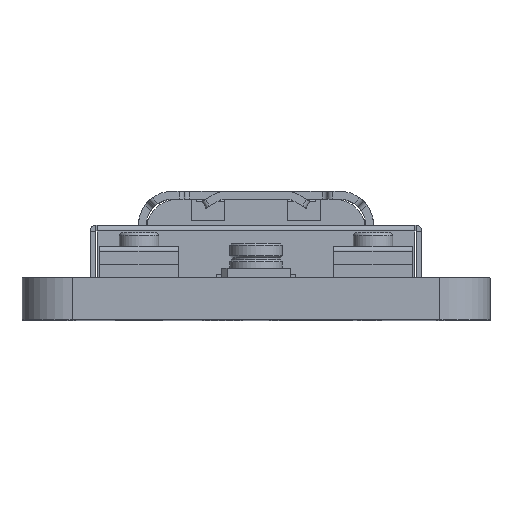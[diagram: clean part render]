
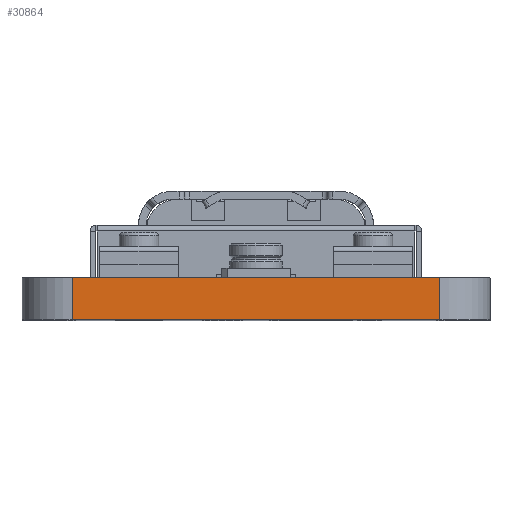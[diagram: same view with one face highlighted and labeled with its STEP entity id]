
A CAD part, top view. The second image highlights one B-rep face of the part: STEP entity #30864.
In plain terms, the highlighted planar face has unit normal (0, 0, 1).
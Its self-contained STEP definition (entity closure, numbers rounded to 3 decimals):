
#13 = VECTOR ( 'NONE', #22874, 1000. ) ;
#127 = CARTESIAN_POINT ( 'NONE',  ( 0., 1.6, 10.477 ) ) ;
#181 = ORIENTED_EDGE ( 'NONE', *, *, #16240, .T. ) ;
#720 = LINE ( 'NONE', #3378, #13 ) ;
#908 = LINE ( 'NONE', #24838, #3401 ) ;
#1646 = EDGE_CURVE ( 'NONE', #9349, #1796, #24829, .T. ) ;
#1651 = PLANE ( 'NONE',  #3935 ) ;
#1796 = VERTEX_POINT ( 'NONE', #23365 ) ;
#3378 = CARTESIAN_POINT ( 'NONE',  ( -6.982, 1.6, 10.477 ) ) ;
#3401 = VECTOR ( 'NONE', #20071, 1000. ) ;
#3706 = EDGE_CURVE ( 'NONE', #18889, #28947, #720, .T. ) ;
#3935 = AXIS2_PLACEMENT_3D ( 'NONE', #8036, #10573, #28429 ) ;
#4533 = LINE ( 'NONE', #127, #9839 ) ;
#5010 = ORIENTED_EDGE ( 'NONE', *, *, #7615, .F. ) ;
#7226 = EDGE_LOOP ( 'NONE', ( #181, #24247, #5010, #17895 ) ) ;
#7615 = EDGE_CURVE ( 'NONE', #18889, #9349, #4533, .T. ) ;
#8036 = CARTESIAN_POINT ( 'NONE',  ( 0., 1.6, 10.477 ) ) ;
#9349 = VERTEX_POINT ( 'NONE', #14573 ) ;
#9839 = VECTOR ( 'NONE', #12012, 1000. ) ;
#10391 = CARTESIAN_POINT ( 'NONE',  ( 6.982, 1.6, 10.477 ) ) ;
#10573 = DIRECTION ( 'NONE',  ( 0., 0., -1. ) ) ;
#11146 = CARTESIAN_POINT ( 'NONE',  ( -6.982, 0., 10.477 ) ) ;
#12012 = DIRECTION ( 'NONE',  ( 1., 0., 0. ) ) ;
#14573 = CARTESIAN_POINT ( 'NONE',  ( 6.982, 1.6, 10.477 ) ) ;
#16240 = EDGE_CURVE ( 'NONE', #28947, #1796, #908, .T. ) ;
#17895 = ORIENTED_EDGE ( 'NONE', *, *, #3706, .T. ) ;
#18117 = DIRECTION ( 'NONE',  ( 0., -1., 0. ) ) ;
#18889 = VERTEX_POINT ( 'NONE', #24644 ) ;
#19469 = VECTOR ( 'NONE', #18117, 1000. ) ;
#20071 = DIRECTION ( 'NONE',  ( 1., 0., 0. ) ) ;
#20980 = FACE_OUTER_BOUND ( 'NONE', #7226, .T. ) ;
#22874 = DIRECTION ( 'NONE',  ( 0., -1., 0. ) ) ;
#23365 = CARTESIAN_POINT ( 'NONE',  ( 6.982, 0., 10.477 ) ) ;
#24247 = ORIENTED_EDGE ( 'NONE', *, *, #1646, .F. ) ;
#24644 = CARTESIAN_POINT ( 'NONE',  ( -6.982, 1.6, 10.477 ) ) ;
#24829 = LINE ( 'NONE', #10391, #19469 ) ;
#24838 = CARTESIAN_POINT ( 'NONE',  ( 0., 0., 10.477 ) ) ;
#28429 = DIRECTION ( 'NONE',  ( -1., 0., 0. ) ) ;
#28947 = VERTEX_POINT ( 'NONE', #11146 ) ;
#30864 = ADVANCED_FACE ( 'NONE', ( #20980 ), #1651, .F. ) ;
